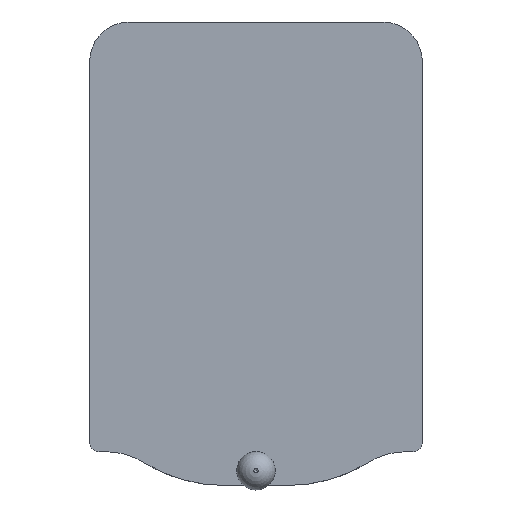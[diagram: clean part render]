
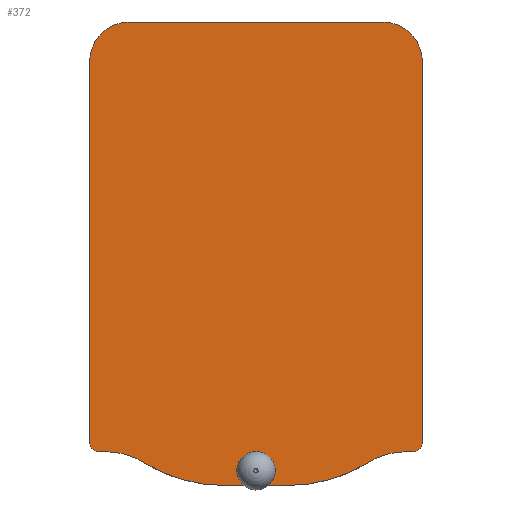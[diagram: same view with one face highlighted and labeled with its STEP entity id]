
A CAD part, top view. The second image highlights one B-rep face of the part: STEP entity #372.
In plain terms, the highlighted planar face has unit normal (0, 0, 1).
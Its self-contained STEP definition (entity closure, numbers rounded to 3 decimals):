
#372=ADVANCED_FACE('',(#453,#454),#427,.T.);
#427=PLANE('',#1270);
#453=FACE_BOUND('',#461,.T.);
#454=FACE_BOUND('',#462,.T.);
#461=EDGE_LOOP('',(#687,#688,#689,#690,#691,#692,#693,#694,#695,#696,#697,
#698,#699,#700));
#462=EDGE_LOOP('',(#701));
#519=LINE('',#1678,#603);
#520=LINE('',#1684,#604);
#521=LINE('',#1688,#605);
#522=LINE('',#1692,#606);
#523=LINE('',#1696,#607);
#524=LINE('',#1700,#608);
#603=VECTOR('',#1374,1.);
#604=VECTOR('',#1379,1.);
#605=VECTOR('',#1382,1.);
#606=VECTOR('',#1385,1.);
#607=VECTOR('',#1388,1.);
#608=VECTOR('',#1391,1.);
#687=ORIENTED_EDGE('',*,*,#1064,.F.);
#688=ORIENTED_EDGE('',*,*,#1065,.F.);
#689=ORIENTED_EDGE('',*,*,#1066,.T.);
#690=ORIENTED_EDGE('',*,*,#1067,.T.);
#691=ORIENTED_EDGE('',*,*,#1068,.F.);
#692=ORIENTED_EDGE('',*,*,#1069,.T.);
#693=ORIENTED_EDGE('',*,*,#1070,.F.);
#694=ORIENTED_EDGE('',*,*,#1071,.T.);
#695=ORIENTED_EDGE('',*,*,#1072,.F.);
#696=ORIENTED_EDGE('',*,*,#1073,.T.);
#697=ORIENTED_EDGE('',*,*,#1074,.F.);
#698=ORIENTED_EDGE('',*,*,#1075,.T.);
#699=ORIENTED_EDGE('',*,*,#1076,.T.);
#700=ORIENTED_EDGE('',*,*,#1077,.T.);
#701=ORIENTED_EDGE('',*,*,#1078,.T.);
#971=VERTEX_POINT('',#1676);
#972=VERTEX_POINT('',#1677);
#973=VERTEX_POINT('',#1679);
#974=VERTEX_POINT('',#1681);
#975=VERTEX_POINT('',#1683);
#976=VERTEX_POINT('',#1685);
#977=VERTEX_POINT('',#1687);
#978=VERTEX_POINT('',#1689);
#979=VERTEX_POINT('',#1691);
#980=VERTEX_POINT('',#1693);
#981=VERTEX_POINT('',#1695);
#982=VERTEX_POINT('',#1697);
#983=VERTEX_POINT('',#1699);
#984=VERTEX_POINT('',#1701);
#985=VERTEX_POINT('',#1704);
#1064=EDGE_CURVE('',#971,#972,#1206,.T.);
#1065=EDGE_CURVE('',#973,#971,#519,.T.);
#1066=EDGE_CURVE('',#973,#974,#1207,.T.);
#1067=EDGE_CURVE('',#974,#975,#1208,.T.);
#1068=EDGE_CURVE('',#976,#975,#520,.T.);
#1069=EDGE_CURVE('',#976,#977,#1209,.T.);
#1070=EDGE_CURVE('',#978,#977,#521,.T.);
#1071=EDGE_CURVE('',#978,#979,#1210,.T.);
#1072=EDGE_CURVE('',#980,#979,#522,.T.);
#1073=EDGE_CURVE('',#980,#981,#1211,.T.);
#1074=EDGE_CURVE('',#982,#981,#523,.T.);
#1075=EDGE_CURVE('',#982,#983,#1212,.T.);
#1076=EDGE_CURVE('',#983,#984,#524,.T.);
#1077=EDGE_CURVE('',#984,#972,#1213,.T.);
#1078=EDGE_CURVE('',#985,#985,#1214,.T.);
#1206=CIRCLE('',#1261,32.071);
#1207=CIRCLE('',#1262,32.071);
#1208=CIRCLE('',#1263,15.);
#1209=CIRCLE('',#1264,2.);
#1210=CIRCLE('',#1265,8.2);
#1211=CIRCLE('',#1266,8.2);
#1212=CIRCLE('',#1267,2.);
#1213=CIRCLE('',#1268,15.);
#1214=CIRCLE('',#1269,2.8);
#1261=AXIS2_PLACEMENT_3D('',#1675,#1372,#1373);
#1262=AXIS2_PLACEMENT_3D('',#1680,#1375,#1376);
#1263=AXIS2_PLACEMENT_3D('',#1682,#1377,#1378);
#1264=AXIS2_PLACEMENT_3D('',#1686,#1380,#1381);
#1265=AXIS2_PLACEMENT_3D('',#1690,#1383,#1384);
#1266=AXIS2_PLACEMENT_3D('',#1694,#1386,#1387);
#1267=AXIS2_PLACEMENT_3D('',#1698,#1389,#1390);
#1268=AXIS2_PLACEMENT_3D('',#1702,#1392,#1393);
#1269=AXIS2_PLACEMENT_3D('',#1703,#1394,#1395);
#1270=AXIS2_PLACEMENT_3D('',#1705,#1396,#1397);
#1372=DIRECTION('',(0.,0.,-1.));
#1373=DIRECTION('',(-1.,0.,0.));
#1374=DIRECTION('',(-1.,0.,0.));
#1375=DIRECTION('',(0.,0.,1.));
#1376=DIRECTION('',(1.,0.,0.));
#1377=DIRECTION('',(0.,0.,-1.));
#1378=DIRECTION('',(1.,0.,0.));
#1379=DIRECTION('',(-1.,0.,0.));
#1380=DIRECTION('',(0.,0.,1.));
#1381=DIRECTION('',(1.,0.,0.));
#1382=DIRECTION('',(0.,-1.,0.));
#1383=DIRECTION('',(0.,0.,1.));
#1384=DIRECTION('',(1.,0.,0.));
#1385=DIRECTION('',(1.,0.,0.));
#1386=DIRECTION('',(0.,0.,1.));
#1387=DIRECTION('',(1.,0.,0.));
#1388=DIRECTION('',(0.,1.,0.));
#1389=DIRECTION('',(0.,0.,1.));
#1390=DIRECTION('',(1.,0.,0.));
#1391=DIRECTION('',(1.,0.,0.));
#1392=DIRECTION('',(0.,0.,-1.));
#1393=DIRECTION('',(1.,0.,0.));
#1394=DIRECTION('',(0.,0.,-1.));
#1395=DIRECTION('',(1.,0.,0.));
#1396=DIRECTION('',(0.,0.,1.));
#1397=DIRECTION('',(1.,0.,0.));
#1675=CARTESIAN_POINT('',(-6.45,0.421,7.25));
#1676=CARTESIAN_POINT('',(-6.45,-31.65,7.25));
#1677=CARTESIAN_POINT('',(-23.278,-26.881,7.25));
#1678=CARTESIAN_POINT('',(0.,-31.65,7.25));
#1679=CARTESIAN_POINT('',(6.45,-31.65,7.25));
#1680=CARTESIAN_POINT('',(6.45,0.421,7.25));
#1681=CARTESIAN_POINT('',(23.278,-26.881,7.25));
#1682=CARTESIAN_POINT('',(31.148,-39.65,7.25));
#1683=CARTESIAN_POINT('',(31.148,-24.65,7.25));
#1684=CARTESIAN_POINT('',(34.45,-24.65,7.25));
#1685=CARTESIAN_POINT('',(32.45,-24.65,7.25));
#1686=CARTESIAN_POINT('',(32.45,-22.65,7.25));
#1687=CARTESIAN_POINT('',(34.45,-22.65,7.25));
#1688=CARTESIAN_POINT('',(34.45,16.35,7.25));
#1689=CARTESIAN_POINT('',(34.45,56.15,7.25));
#1690=CARTESIAN_POINT('',(26.25,56.15,7.25));
#1691=CARTESIAN_POINT('',(26.25,64.35,7.25));
#1692=CARTESIAN_POINT('',(0.,64.35,7.25));
#1693=CARTESIAN_POINT('',(-26.25,64.35,7.25));
#1694=CARTESIAN_POINT('',(-26.25,56.15,7.25));
#1695=CARTESIAN_POINT('',(-34.45,56.15,7.25));
#1696=CARTESIAN_POINT('',(-34.45,16.35,7.25));
#1697=CARTESIAN_POINT('',(-34.45,-22.65,7.25));
#1698=CARTESIAN_POINT('',(-32.45,-22.65,7.25));
#1699=CARTESIAN_POINT('',(-32.45,-24.65,7.25));
#1700=CARTESIAN_POINT('',(-34.45,-24.65,7.25));
#1701=CARTESIAN_POINT('',(-31.148,-24.65,7.25));
#1702=CARTESIAN_POINT('',(-31.148,-39.65,7.25));
#1703=CARTESIAN_POINT('',(0.,-28.65,7.25));
#1704=CARTESIAN_POINT('',(2.8,-28.65,7.25));
#1705=CARTESIAN_POINT('',(0.,16.35,7.25));
